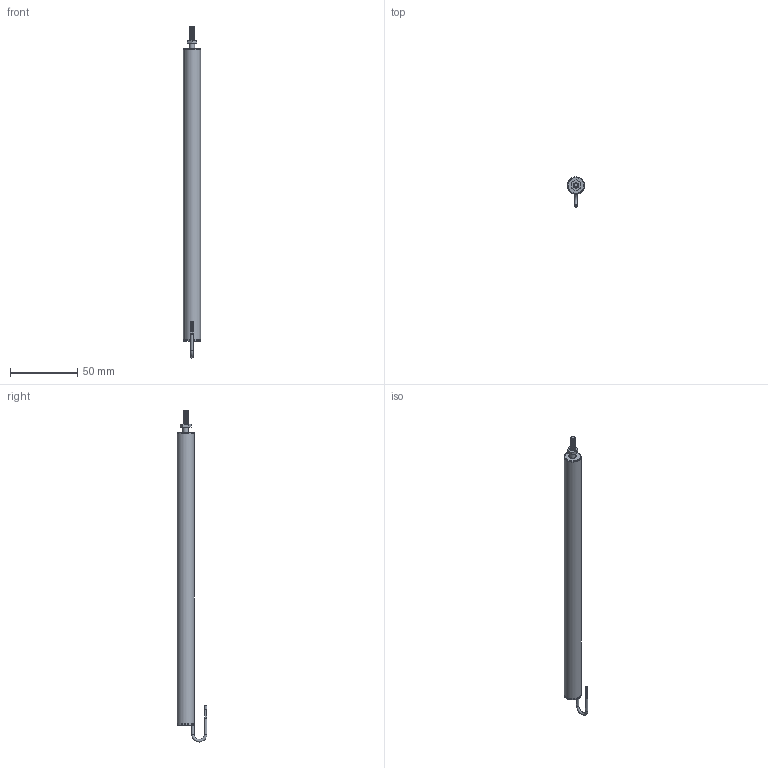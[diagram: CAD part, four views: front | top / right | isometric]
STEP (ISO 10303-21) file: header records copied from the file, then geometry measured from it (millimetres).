
FILE_DESCRIPTION(/* description */ (''),/* implementation_level */ '2;1');
FILE_NAME(/* name */ 'ILPS-13Z-200-A-00-YY-S Assembly (wrapped).iam.stp',/* time_stamp */ '2023-05-05T16:05:25-04:00',/* author */ ('TSC_Grant'),/* organization */ (''),/* preprocessor_version */ 'ST-DEVELOPER v19.2',/* originating_system */ 'Autodesk Inventor 2024',/* authorisation */ '');
FILE_SCHEMA (('AUTOMOTIVE_DESIGN { 1 0 10303 214 3 1 1 }'));
Length unit declared in the file: inch
Products named in the file (5): 3020-0017-XX Assembly_SW; 3020-0017-XX Sensor Tube_SW; 3020-0017-XX Shaft_SW; 3020-0017-XX Wire_SW; BS 4183 - M4
Assembly tree (4 placements, depth 2):
  3020-0017-XX Assembly_SW
    3020-0017-XX Sensor Tube_SW
    3020-0017-XX Shaft_SW
    3020-0017-XX Wire_SW
    BS 4183 - M4
Bounding box: 12.7 x 22.14 x 247.46 mm (x, y, z)
Volume: 5675.5 mm3; surface area: 28164.4 mm2
Topology: 7 solids, 7 shells, 64 faces, 122 edges, 80 vertices
Faces by surface type: plane 32, cylinder 22, cone 4, torus 3, bspline 3
Full cylindrical faces by diameter (mm): 0.508 x4, 0.635 x4, 1.857 x2, 3.242 x1, 3.988 x1, 4.826 x1, 5.588 x3, 12.446 x1, 12.7 x3
Entity records: 3538 total; most frequent: CARTESIAN_POINT 1894, DIRECTION 304, ORIENTED_EDGE 244, AXIS2_PLACEMENT_3D 127, EDGE_CURVE 122, EDGE_LOOP 82, VERTEX_POINT 80, FACE_OUTER_BOUND 64
